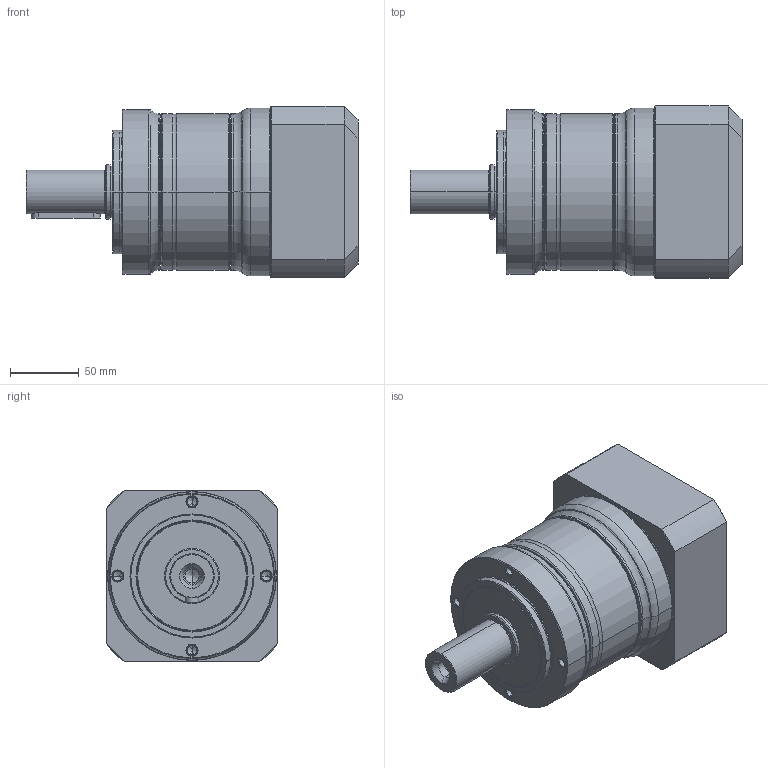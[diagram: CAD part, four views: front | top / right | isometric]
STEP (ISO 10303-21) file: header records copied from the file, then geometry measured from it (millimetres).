
FILE_DESCRIPTION((''),'2;1');
FILE_NAME('PE2-120_1ST_32-P0411700101_ASM','2016-04-26T',('d00435'),(''),'PRO/ENGINEER BY PARAMETRIC TECHNOLOGY CORPORATION, 2008410','PRO/ENGINEER BY PARAMETRIC TECHNOLOGY CORPORATION, 2008410','');
FILE_SCHEMA(('CONFIG_CONTROL_DESIGN'));
Length unit declared in the file: millimetre
Products named in the file (9): P1323410001; P0250400001; P1324400301; P0350401001; P0941403001; P0503700010; P0411700101; P1702600001; PE2-120_1ST_32-P0411700101_ASM
Assembly tree (8 placements, depth 2):
  PE2-120_1ST_32-P0411700101_ASM
    P1323410001
    P0250400001
    P1324400301
    P0350401001
    P0941403001
    P0503700010
    P0411700101
    P1702600001
Bounding box: 241.5 x 125 x 125 mm (x, y, z)
Volume: 1671265.6 mm3; surface area: 271120.7 mm2
Topology: 8 solids, 22 shells, 524 faces, 1174 edges, 694 vertices
Faces by surface type: cylinder 166, cone 144, torus 102, plane 96, bspline 16
Entity records: 19412 total; most frequent: CARTESIAN_POINT 7417, DIRECTION 2763, ORIENTED_EDGE 2220, AXIS2_PLACEMENT_3D 1195, EDGE_CURVE 1138, VERTEX_POINT 694, CIRCLE 660, EDGE_LOOP 604
